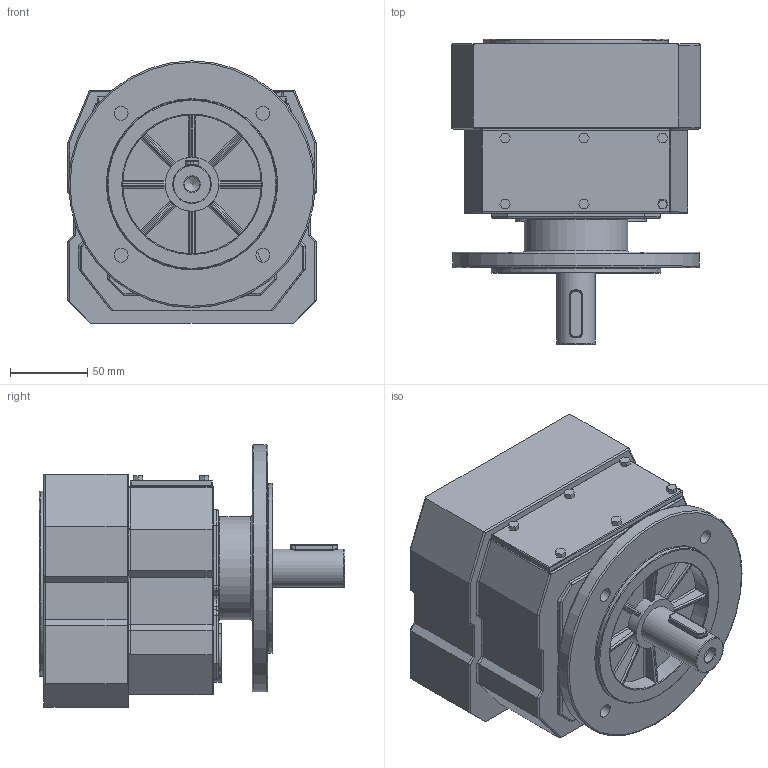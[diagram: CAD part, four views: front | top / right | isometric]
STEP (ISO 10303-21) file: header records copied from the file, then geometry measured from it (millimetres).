
FILE_DESCRIPTION((''),'2;1');
FILE_NAME('D:\PAWEŁ\ZLECENIA\2011 DualSystem\Przekładnie DR\DR30\STEP\DRF30_fi 160.stp','2012-06-11T11:52:19',('admin'),(''),'Autodesk Inventor 2009','Autodesk Inventor 2009','');
FILE_SCHEMA(('AUTOMOTIVE_DESIGN { 1 0 10303 214 1 1 1 1 }'));
Length unit declared in the file: millimetre
Products named in the file (1): DRF30_fi 160
Bounding box: 161 x 198 x 170 mm (x, y, z)
Volume: 2656760.5 mm3; surface area: 180536.5 mm2
Topology: 2 solids, 2 shells, 372 faces, 909 edges, 545 vertices
Faces by surface type: plane 165, cylinder 155, bspline 19, torus 19, sphere 14
Full cylindrical faces by diameter (mm): 25 x1, 25.333 x1, 34 x1, 35 x1, 38 x1, 67 x1, 80 x1, 90 x1, 110 x1, 120 x1, 160 x1
Entity records: 11912 total; most frequent: CARTESIAN_POINT 3198, DIRECTION 1811, ORIENTED_EDGE 1728, EDGE_CURVE 864, AXIS2_PLACEMENT_3D 637, VECTOR 537, LINE 537, VERTEX_POINT 536
